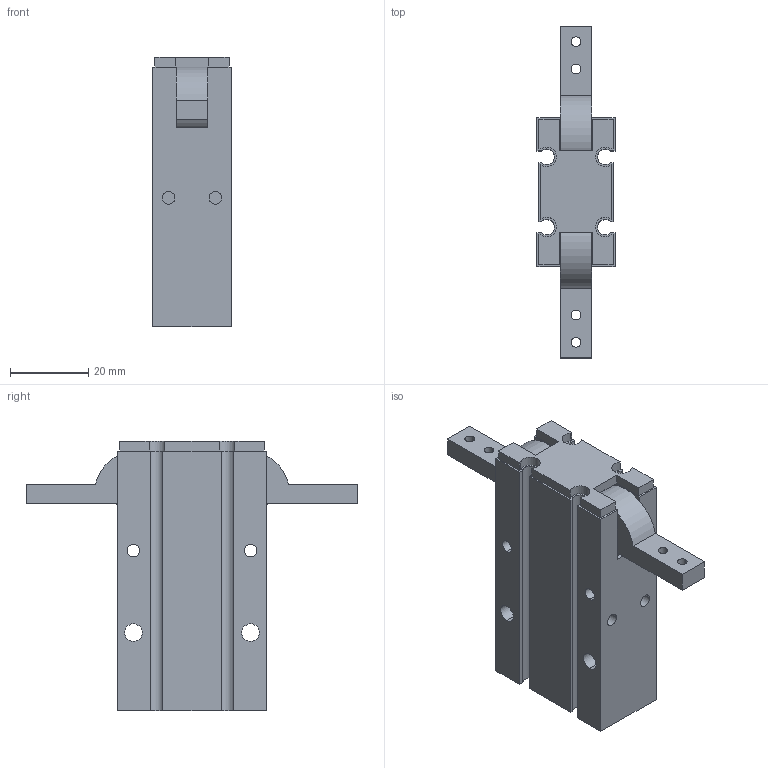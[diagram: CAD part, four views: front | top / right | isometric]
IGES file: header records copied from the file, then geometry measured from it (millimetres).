
Global section: file name: No Iges File Name specified; native system: AutoDesk Inventor R11.0; preprocessor: AutoDesk Inventor Iges Exporter R11.0; author: No Author specified; organization: No Organization specified; date: 20070226.140141; units: millimetre
Bounding box: 20 x 85 x 69 mm (x, y, z)
Volume: 45076.7 mm3; surface area: 17314.1 mm2
Topology: 3 solids, 3 shells, 118 faces, 314 edges, 208 vertices
Faces by surface type: plane 60, bspline 34, revolution 16, cylinder 8
